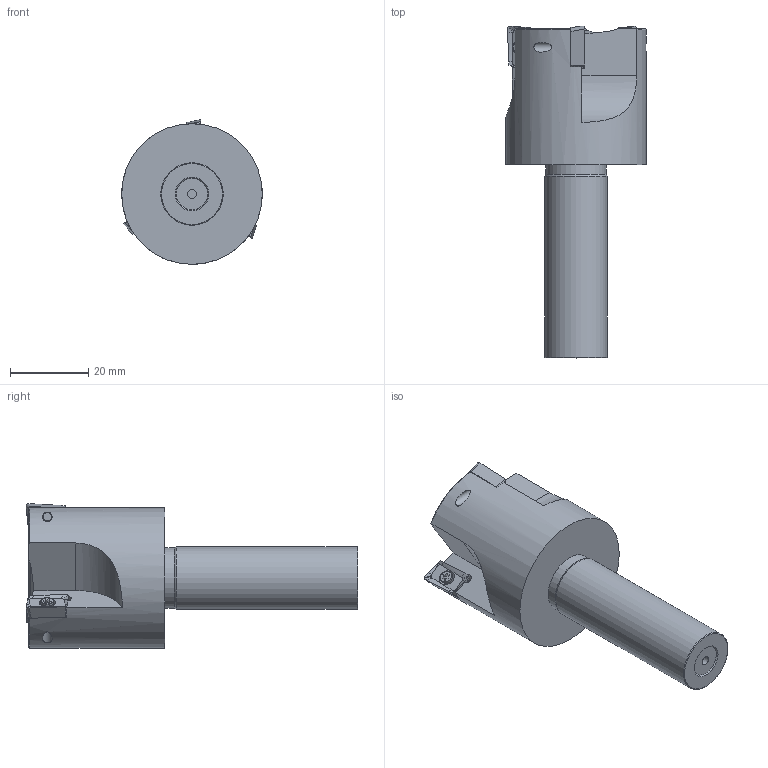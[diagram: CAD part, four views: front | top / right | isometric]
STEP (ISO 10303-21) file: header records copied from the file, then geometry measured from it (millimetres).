
FILE_DESCRIPTION(/* description */ (''),/* implementation_level */ '2;1');
FILE_NAME(/* name */ 'Z:\Проектный отдел\Арина\Фрезы\EAP300R-c16-38-85-3T\EAP300R-c16-38-85-3T.stp',/* time_stamp */ '2023-05-31T15:25:53+03:00',/* author */ ('user'),/* organization */ (''),/* preprocessor_version */ 'ST-DEVELOPER v18',/* originating_system */ 'Autodesk Inventor 2020',/* authorisation */ '');
FILE_SCHEMA (('AUTOMOTIVE_DESIGN { 1 0 10303 214 3 1 1 }'));
Length unit declared in the file: millimetre
Products named in the file (4): EAP300R-c16-38-85-3T; EAP300R-C12-17-150-2T; Напайка; Болт
Assembly tree (7 placements, depth 2):
  EAP300R-c16-38-85-3T
    EAP300R-C12-17-150-2T
    Напайка  x3
    Болт  x3
Bounding box: 36 x 85 x 37.04 mm (x, y, z)
Volume: 39584.9 mm3; surface area: 9748.1 mm2
Topology: 7 solids, 7 shells, 226 faces, 629 edges, 424 vertices
Faces by surface type: plane 105, cylinder 50, bspline 48, cone 19, torus 4
Full cylindrical faces by diameter (mm): 2.3 x1, 2.5 x10, 3.1 x3, 3.3 x3, 15.5 x1, 16 x1, 36 x1
Entity records: 4367 total; most frequent: CARTESIAN_POINT 1345, ORIENTED_EDGE 626, DIRECTION 591, EDGE_CURVE 313, AXIS2_PLACEMENT_3D 232, VERTEX_POINT 214, LINE 127, VECTOR 127
